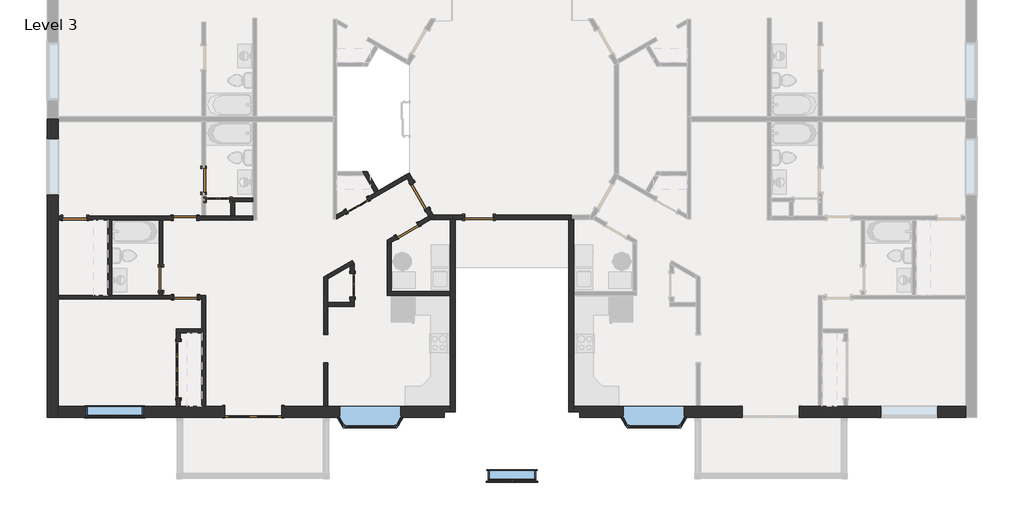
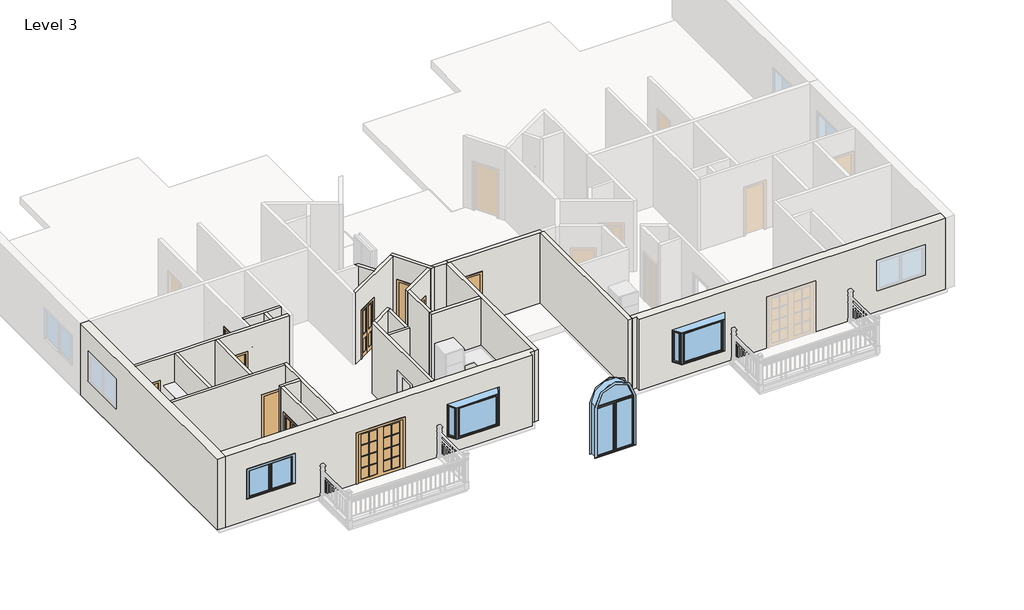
# One storey, part 1 of 5: 26 walls, 13 doors, 4 windows.
"""IFC4 building model written with IfcOpenShell, lengths in millimetres."""

from ifc_helpers import new_model, si_unit, frame, origin, place, context, project, spatial, polyline, outline, extrude, faceted_brep, transform, mapped, element, save
from components import door_28b41c19, door_77c9d7c5, door_c95ce901, door_0a477ef8, door_91cbdfe0, door_39079f6b, door_140ee3fe, door_3dff5d0e, window_8b7055c8, window_fb9100aa, window_7fb523db, window_565d5888

model = new_model("IFC4")

# Units and contexts
model_context = context("Model", 3, world=origin())
ifc_project = project(units=[si_unit("LENGTHUNIT", "METRE", prefix="MILLI")], contexts=[model_context])

# Site, building, storey
site = spatial("IfcSite", under=ifc_project)
building = spatial("IfcBuilding", under=site)
storey = spatial("IfcBuildingStorey", under=building, Name="Level 3", Elevation=6096.0)

# Doors
placement = place(None, origin())
door_shape = door_28b41c19(model_context)
element("IfcDoor", 1, ObjectType="Bifold-2 Panel : 30\" x 80\"", at=placement, inside=storey, context=model_context, shape_type="MappedRepresentation", body=[
    mapped(door_shape, transform((-10106.3500398, -807.7286799, 6096.0), x_axis=(-1.0, 0.0, 0.0), y_axis=(0.0, -1.0, 0.0), z_axis=(0.0, 0.0, 1.0))),
])
door_2_shape = door_77c9d7c5(model_context)
element("IfcDoor", 2, ObjectType="Bifold-2 Panel : 30\" x 80\"", at=placement, inside=storey, context=model_context, shape_type="MappedRepresentation", body=[
    mapped(door_2_shape, transform((-5777.2375398, -3569.9786799, 6096.0), x_axis=(0.0, -1.0, 0.0), y_axis=(1.0, 0.0, 0.0), z_axis=(0.0, 0.0, 1.0))),
])
element("IfcDoor", 3, ObjectType="Bifold-2 Panel : 30\" x 80\"", at=placement, inside=storey, context=model_context, shape_type="MappedRepresentation", body=[
    mapped(door_2_shape, transform((-5620.6593942, -978.2984974, 6096.0), x_axis=(-0.8660254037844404, -0.4999999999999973, 0.0), y_axis=(0.4999999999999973, -0.8660254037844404, 0.0), z_axis=(0.0, 0.0, 1.0))),
])
door_3_shape = door_c95ce901(model_context)
element("IfcDoor", 4, ObjectType="Bifold-4 Panel : 72\" x 80\"", at=placement, inside=storey, context=model_context, shape_type="MappedRepresentation", body=[
    mapped(door_3_shape, transform((-11387.4625398, -6287.7786799, 6096.0), x_axis=(0.0, 1.0, 0.0), y_axis=(-1.0, 0.0, 0.0), z_axis=(0.0, 0.0, 1.0))),
])
door_4_shape = door_0a477ef8(model_context)
element("IfcDoor", 5, ObjectType="Double-Glass 2 : 72\" x 84\"", at=placement, inside=storey, context=model_context, shape_type="MappedRepresentation", body=[
    mapped(door_4_shape, transform((-8972.8750398, -7646.6786799, 6096.0), x_axis=(-1.0, 0.0, 0.0), y_axis=(0.0, -1.0, 0.0), z_axis=(0.0, 0.0, 1.0))),
])
door_5_shape = door_91cbdfe0(model_context)
element("IfcDoor", 6, ObjectType="Single-Flush : 30\" x 80\"", at=placement, inside=storey, context=model_context, shape_type="MappedRepresentation", body=[
    mapped(door_5_shape, transform((-11154.1000398, -3954.1536799, 6096.0), x_axis=(1.0, 0.0, 0.0), y_axis=(0.0, 1.0, 0.0), z_axis=(0.0, 0.0, 1.0))),
])
element("IfcDoor", 7, ObjectType="Single-Flush : 30\" x 80\"", at=placement, inside=storey, context=model_context, shape_type="MappedRepresentation", body=[
    mapped(door_5_shape, transform((-4004.5369788, -1809.0046321, 6096.0), x_axis=(0.8660254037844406, 0.4999999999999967, 0.0), y_axis=(-0.4999999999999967, 0.8660254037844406, 0.0), z_axis=(0.0, 0.0, 1.0))),
])
element("IfcDoor", 8, ObjectType="Single-Flush : 30\" x 80\"", at=placement, inside=storey, context=model_context, shape_type="MappedRepresentation", body=[
    mapped(door_5_shape, transform((-11949.4375398, -3358.8411799, 6096.0), x_axis=(0.0, -1.0, 0.0), y_axis=(1.0, 0.0, 0.0), z_axis=(0.0, 0.0, 1.0))),
])
door_6_shape = door_39079f6b(model_context)
element("IfcDoor", 9, ObjectType="Single-Flush : 30\" x 80\"", at=placement, inside=storey, context=model_context, shape_type="MappedRepresentation", body=[
    mapped(door_6_shape, transform((-11169.9750398, -1391.9286799, 6096.0), x_axis=(1.0, 0.0, 0.0), y_axis=(0.0, 1.0, 0.0), z_axis=(0.0, 0.0, 1.0))),
])
element("IfcDoor", 10, ObjectType="Single-Flush : 30\" x 80\"", at=placement, inside=storey, context=model_context, shape_type="MappedRepresentation", body=[
    mapped(door_6_shape, transform((-10574.6625398, -183.8411799, 6096.0), x_axis=(0.0, -1.0, 0.0), y_axis=(1.0, 0.0, 0.0), z_axis=(0.0, 0.0, 1.0))),
])
element("IfcDoor", 11, ObjectType="Single-Flush : 30\" x 80\"", at=placement, inside=storey, context=model_context, shape_type="MappedRepresentation", body=[
    mapped(door_6_shape, transform((-14725.9750398, -1391.9286799, 6096.0), x_axis=(-1.0, 0.0, 0.0), y_axis=(0.0, -1.0, 0.0), z_axis=(0.0, 0.0, 1.0))),
])
door_7_shape = door_140ee3fe(model_context)
element("IfcDoor", 12, ObjectType="Single-Flush : 36\" x 80\"", at=placement, inside=storey, context=model_context, shape_type="MappedRepresentation", body=[
    mapped(door_7_shape, transform((-3603.7554054, -687.0786799, 6096.0), x_axis=(-0.4999999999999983, 0.8660254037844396, 0.0), y_axis=(-0.8660254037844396, -0.4999999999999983, 0.0), z_axis=(0.0, 0.0, 1.0))),
])
door_8_shape = door_3dff5d0e(model_context)
element("IfcDoor", 13, ObjectType="Single-Flush : 36\" x 84\"", at=placement, inside=storey, context=model_context, shape_type="MappedRepresentation", body=[
    mapped(door_8_shape, transform((-1698.9500398, -1372.8786799, 6096.0), x_axis=(-1.0, 0.0, 0.0), y_axis=(0.0, -1.0, 0.0), z_axis=(0.0, 0.0, 1.0))),
])

# Walls
element("IfcWall", 14, ObjectType="Exterior - Brick on Mtl. Stud", at=placement, inside=storey, context=model_context, shape_type="Brep", body=[
    faceted_brep([(-15259.3750398, -7822.8911799, 6096.0), (-9887.2750398, -7822.8911799, 6096.0), (-9887.2750398, -7822.8911799, 8229.6), (-8058.4750398, -7822.8911799, 8229.6), (-8058.4750398, -7822.8911799, 6096.0), (-2813.3750398, -7822.8911799, 6096.0), (-2813.3750398, -7822.8911799, 9144.0), (-15259.3750398, -7822.8911799, 9144.0), (-6259.7532738, -7822.8911799, 8229.6), (-4151.6375398, -7822.8911799, 8229.6), (-4151.6375398, -7822.8911799, 6858.0), (-6259.7532738, -7822.8911799, 6858.0), (-14350.5312898, -7822.8911799, 8229.6), (-12521.7312898, -7822.8911799, 8229.6), (-12521.7312898, -7822.8911799, 7010.4), (-14350.5312898, -7822.8911799, 7010.4), (-9887.2750398, -7470.4661799, 8229.6), (-9887.2750398, -7470.4661799, 6096.0), (-10512.7500398, -7470.4661799, 6096.0), (-10636.5750398, -7470.4661799, 6096.0), (-11325.5500398, -7470.4661799, 6096.0), (-11449.3750398, -7470.4661799, 6096.0), (-15259.3750398, -7470.4661799, 6096.0), (-15259.3750398, -7470.4661799, 9144.0), (-11449.3750398, -7470.4661799, 9144.0), (-11325.5500398, -7470.4661799, 9144.0), (-10636.5750398, -7470.4661799, 9144.0), (-10512.7500398, -7470.4661799, 9144.0), (-6702.7500398, -7470.4661799, 9144.0), (-6578.9250398, -7470.4661799, 9144.0), (-2616.5250398, -7470.4661799, 9144.0), (-2616.5250398, -7470.4661799, 6096.0), (-6578.9250398, -7470.4661799, 6096.0), (-6702.7500398, -7470.4661799, 6096.0), (-8058.4750398, -7470.4661799, 6096.0), (-8058.4750398, -7470.4661799, 8229.6), (-4218.9373798, -7470.4661799, 8229.6), (-6192.5376998, -7470.4661799, 8229.6), (-6192.5376998, -7470.4661799, 6858.0), (-4218.9373798, -7470.4661799, 6858.0), (-14350.5312898, -7470.4661799, 8229.6), (-14350.5312898, -7470.4661799, 7010.4), (-12521.7312898, -7470.4661799, 7010.4), (-12521.7312898, -7470.4661799, 8229.6), (-2616.5250398, -7646.6786799, 6096.0), (-2813.3750398, -7646.6786799, 6096.0), (-2813.3750398, -7646.6786799, 9144.0), (-2616.5250398, -7646.6786799, 9144.0), (-4218.9373798, -7783.9404412, 8229.6), (-6192.5376998, -7783.9890922, 8229.6), (-4218.9373798, -7783.9404412, 6858.0), (-6192.5376998, -7783.9890922, 6858.0)], [[[0, 1, 2, 3, 4, 5, 6, 7], [8, 9, 10, 11], [12, 13, 14, 15]], [[16, 17, 18, 19, 20, 21, 22, 23, 24, 25, 26, 27, 28, 29, 30, 31, 32, 33, 34, 35], [36, 37, 38, 39], [40, 41, 42, 43]], [[22, 21, 20, 19, 18, 17, 1, 0]], [[34, 33, 32, 31, 44, 45, 5, 4]], [[7, 6, 46, 47, 30, 29, 28, 27, 26, 25, 24, 23]], [[0, 7, 23, 22]], [[6, 5, 45, 46]], [[45, 44, 47, 46]], [[44, 31, 30, 47]], [[2, 1, 17, 16]], [[3, 2, 16, 35]], [[4, 3, 35, 34]], [[48, 9, 8, 49, 37, 36]], [[50, 39, 38, 51, 11, 10]], [[48, 36, 39, 50]], [[37, 49, 51, 38]], [[49, 8, 11, 51]], [[9, 48, 50, 10]], [[41, 40, 12, 15]], [[42, 41, 15, 14]], [[43, 42, 14, 13]], [[40, 43, 13, 12]]]),
])
element("IfcWall", 15, ObjectType="Exterior - Brick on Mtl. Stud", at=placement, inside=storey, context=model_context, shape_type="Brep", body=[
    faceted_brep([(-15611.8000398, 1795.7713201, 6096.0), (-15611.8000398, -7822.8911799, 6096.0), (-15611.8000398, -7822.8911799, 9144.0), (-15611.8000398, 1795.7713201, 9144.0), (-15611.8000398, 1170.2963201, 8229.6), (-15611.8000398, -658.5036799, 8229.6), (-15611.8000398, -658.5036799, 7010.4), (-15611.8000398, 1170.2963201, 7010.4), (-15259.3750398, 1795.7713201, 6096.0), (-15259.3750398, 1795.7713201, 9144.0), (-15259.3750398, 1717.9838201, 9144.0), (-15259.3750398, -1330.0161799, 9144.0), (-15259.3750398, -1453.8411799, 9144.0), (-15259.3750398, -3892.2411799, 9144.0), (-15259.3750398, -4016.0661799, 9144.0), (-15259.3750398, -7470.4661799, 9144.0), (-15259.3750398, -7822.8911799, 9144.0), (-15259.3750398, -7822.8911799, 6096.0), (-15259.3750398, -7470.4661799, 6096.0), (-15259.3750398, -4016.0661799, 6096.0), (-15259.3750398, -3892.2411799, 6096.0), (-15259.3750398, -1453.8411799, 6096.0), (-15259.3750398, -1330.0161799, 6096.0), (-15259.3750398, 1717.9838201, 6096.0), (-15259.3750398, 1170.2963201, 8229.6), (-15259.3750398, 1170.2963201, 7010.4), (-15259.3750398, -658.5036799, 7010.4), (-15259.3750398, -658.5036799, 8229.6)], [[[0, 1, 2, 3], [4, 5, 6, 7]], [[8, 9, 10, 11, 12, 13, 14, 15, 16, 17, 18, 19, 20, 21, 22, 23], [24, 25, 26, 27]], [[1, 0, 8, 23, 22, 21, 20, 19, 18, 17]], [[3, 2, 16, 15, 14, 13, 12, 11, 10, 9]], [[0, 3, 9, 8]], [[2, 1, 17, 16]], [[25, 24, 4, 7]], [[26, 25, 7, 6]], [[27, 26, 6, 5]], [[24, 27, 5, 4]]]),
])
element("IfcWall", 16, ObjectType="Exterior - Brick on Mtl. Stud", at=placement, inside=storey, context=model_context, shape_type="Brep", body=[
    faceted_brep([(13995.0749602, -7470.4661799, 6096.0), (10185.0749602, -7470.4661799, 6096.0), (10061.2499602, -7470.4661799, 6096.0), (9372.2749602, -7470.4661799, 6096.0), (9248.4499602, -7470.4661799, 6096.0), (8622.9749602, -7470.4661799, 6096.0), (8622.9749602, -7470.4661799, 8229.6), (6794.1749602, -7470.4661799, 8229.6), (6794.1749602, -7470.4661799, 6096.0), (5438.4499602, -7470.4661799, 6096.0), (5314.6249602, -7470.4661799, 6096.0), (1352.2249602, -7470.4661799, 6096.0), (1352.2249602, -7470.4661799, 9144.0), (5314.6249602, -7470.4661799, 9144.0), (5438.4499602, -7470.4661799, 9144.0), (9248.4499602, -7470.4661799, 9144.0), (9372.2749602, -7470.4661799, 9144.0), (10061.2499602, -7470.4661799, 9144.0), (10185.0749602, -7470.4661799, 9144.0), (13995.0749602, -7470.4661799, 9144.0), (4928.2376202, -7470.4661799, 8229.6), (2954.6373002, -7470.4661799, 8229.6), (2954.6373002, -7470.4661799, 6858.0), (4928.2376202, -7470.4661799, 6858.0), (13086.2312102, -7470.4661799, 8229.6), (11257.4312102, -7470.4661799, 8229.6), (11257.4312102, -7470.4661799, 7010.4), (13086.2312102, -7470.4661799, 7010.4), (8622.9749602, -7822.8911799, 8229.6), (8622.9749602, -7822.8911799, 6096.0), (13995.0749602, -7822.8911799, 6096.0), (13995.0749602, -7822.8911799, 9144.0), (1549.0749602, -7822.8911799, 9144.0), (1549.0749602, -7822.8911799, 6096.0), (6794.1749602, -7822.8911799, 6096.0), (6794.1749602, -7822.8911799, 8229.6), (2887.3374602, -7822.8911799, 8229.6), (4995.4531942, -7822.8911799, 8229.6), (4995.4531942, -7822.8911799, 6858.0), (2887.3374602, -7822.8911799, 6858.0), (13086.2312102, -7822.8911799, 8229.6), (13086.2312102, -7822.8911799, 7010.4), (11257.4312102, -7822.8911799, 7010.4), (11257.4312102, -7822.8911799, 8229.6), (1549.0749602, -7646.6786799, 6096.0), (1352.2249602, -7646.6786799, 6096.0), (1352.2249602, -7646.6786799, 9144.0), (1549.0749602, -7646.6786799, 9144.0), (2954.6373002, -7783.9404412, 8229.6), (4928.2376202, -7783.9890922, 8229.6), (2954.6373002, -7783.9404412, 6858.0), (4928.2376202, -7783.9890922, 6858.0)], [[[0, 1, 2, 3, 4, 5, 6, 7, 8, 9, 10, 11, 12, 13, 14, 15, 16, 17, 18, 19], [20, 21, 22, 23], [24, 25, 26, 27]], [[28, 29, 30, 31, 32, 33, 34, 35], [36, 37, 38, 39], [40, 41, 42, 43]], [[30, 29, 5, 4, 3, 2, 1, 0]], [[34, 33, 44, 45, 11, 10, 9, 8]], [[19, 18, 17, 16, 15, 14, 13, 12, 46, 47, 32, 31]], [[0, 19, 31, 30]], [[12, 11, 45, 46]], [[45, 44, 47, 46]], [[44, 33, 32, 47]], [[6, 5, 29, 28]], [[7, 6, 28, 35]], [[8, 7, 35, 34]], [[48, 21, 20, 49, 37, 36]], [[50, 39, 38, 51, 23, 22]], [[48, 50, 22, 21]], [[20, 23, 51, 49]], [[49, 51, 38, 37]], [[36, 39, 50, 48]], [[41, 40, 24, 27]], [[42, 41, 27, 26]], [[43, 42, 26, 25]], [[40, 43, 25, 24]]]),
])
element("IfcWall", 17, ObjectType="Generic - 6\" Masonry", at=placement, inside=storey, context=model_context, shape_type="Brep", body=[
    faceted_brep([(-3084.0752113, -1444.3161799, 6096.0), (-2616.5250398, -1444.3161799, 6096.0), (-2538.7375398, -1444.3161799, 6096.0), (-2538.7375398, -1444.3161799, 9144.0), (-2616.5250398, -1444.3161799, 9144.0), (-3084.0752113, -1444.3161799, 9144.0), (-3166.564131, -1301.4411799, 6096.0), (-3166.564131, -1301.4411799, 9144.0), (-2538.7375398, -1301.4411799, 9144.0), (-2538.7375398, -1301.4411799, 6096.0)], [[[0, 1, 2, 3, 4, 5]], [[6, 7, 8, 9]], [[2, 1, 0, 6, 9]], [[3, 2, 9, 8]], [[5, 4, 3, 8, 7]], [[0, 5, 7, 6]]]),
])
element("IfcWall", 18, ObjectType="Generic - 6\" Masonry", at=placement, inside=storey, context=model_context, shape_type="Brep", body=[
    faceted_brep([(-4074.7024624, -14.2494496, 6096.0), (-4012.7899624, -121.4850452, 6096.0), (-3894.2220952, -326.8506153, 6096.0), (-3894.2220952, -326.8506153, 8128.0), (-3437.0220952, -1118.7442445, 8128.0), (-3437.0220952, -1118.7442445, 6096.0), (-3310.9655507, -1337.0805843, 6096.0), (-3249.0530507, -1444.3161799, 6096.0), (-3249.0530507, -1444.3161799, 9144.0), (-3310.9655507, -1337.0805843, 9144.0), (-4012.7899624, -121.4850452, 9144.0), (-4074.7024624, -14.2494496, 9144.0), (-3770.4887156, -255.4131153, 8128.0), (-3770.4887156, -255.4131153, 6096.0), (-3950.9690828, 57.1880504, 6096.0), (-3950.9690828, 57.1880504, 9144.0), (-3166.564131, -1301.4411799, 9144.0), (-3084.0752113, -1444.3161799, 9144.0), (-3084.0752113, -1444.3161799, 6096.0), (-3166.564131, -1301.4411799, 6096.0), (-3313.2887156, -1047.3067445, 6096.0), (-3313.2887156, -1047.3067445, 8128.0)], [[[0, 1, 2, 3, 4, 5, 6, 7, 8, 9, 10, 11]], [[12, 13, 14, 15, 16, 17, 18, 19, 20, 21]], [[14, 13, 2, 1, 0]], [[20, 19, 18, 7, 6, 5]], [[11, 10, 9, 8, 17, 16, 15]], [[0, 11, 15, 14]], [[8, 7, 18, 17]], [[3, 2, 13, 12]], [[4, 3, 12, 21]], [[5, 4, 21, 20]]]),
])
element("IfcWall", 19, ObjectType="Generic - 6\" Masonry", at=placement, inside=storey, context=model_context, shape_type="Brep", body=[
    faceted_brep([(-2538.7375398, -1444.3161799, 6096.0), (-2460.9500398, -1444.3161799, 6096.0), (-2156.1500398, -1444.3161799, 6096.0), (-2156.1500398, -1444.3161799, 8229.6), (-1241.7500398, -1444.3161799, 8229.6), (-1241.7500398, -1444.3161799, 6096.0), (1196.6499602, -1444.3161799, 6096.0), (1274.4374602, -1444.3161799, 6096.0), (1274.4374602, -1444.3161799, 9144.0), (1196.6499602, -1444.3161799, 9144.0), (-2460.9500398, -1444.3161799, 9144.0), (-2538.7375398, -1444.3161799, 9144.0), (-2156.1500398, -1301.4411799, 8229.6), (-2156.1500398, -1301.4411799, 6096.0), (-2538.7375398, -1301.4411799, 6096.0), (-2538.7375398, -1301.4411799, 9144.0), (1274.4374602, -1301.4411799, 9144.0), (1274.4374602, -1301.4411799, 6096.0), (-1241.7500398, -1301.4411799, 6096.0), (-1241.7500398, -1301.4411799, 8229.6)], [[[0, 1, 2, 3, 4, 5, 6, 7, 8, 9, 10, 11]], [[12, 13, 14, 15, 16, 17, 18, 19]], [[18, 17, 7, 6, 5]], [[14, 13, 2, 1, 0]], [[8, 7, 17, 16]], [[11, 10, 9, 8, 16, 15]], [[0, 11, 15, 14]], [[3, 2, 13, 12]], [[4, 3, 12, 19]], [[5, 4, 19, 18]]]),
])
element("IfcWall", 20, ObjectType="Interior - 4 7/8\" Partition (1-hr)", at=placement, inside=storey, context=model_context, shape_type="Brep", body=[
    faceted_brep([(-6578.9250398, -7470.4661799, 6096.0), (-6578.9250398, -6071.8786799, 6096.0), (-6578.9250398, -6071.8786799, 8128.0), (-6578.9250398, -5157.4786799, 8128.0), (-6578.9250398, -5157.4786799, 6096.0), (-6578.9250398, -4244.6661799, 6096.0), (-6578.9250398, -4120.8411799, 6096.0), (-6578.9250398, -3366.8186692, 6096.0), (-6578.9250398, -3223.8378751, 6096.0), (-6578.9250398, -3223.8378751, 9144.0), (-6578.9250398, -3366.8186692, 9144.0), (-6578.9250398, -4120.8411799, 9144.0), (-6578.9250398, -4244.6661799, 9144.0), (-6578.9250398, -7470.4661799, 9144.0), (-6702.7500398, -6071.8786799, 8128.0), (-6702.7500398, -6071.8786799, 6096.0), (-6702.7500398, -7470.4661799, 6096.0), (-6702.7500398, -7470.4661799, 9144.0), (-6702.7500398, -3295.3282721, 9144.0), (-6702.7500398, -3295.3282721, 6096.0), (-6702.7500398, -5157.4786799, 6096.0), (-6702.7500398, -5157.4786799, 8128.0)], [[[0, 1, 2, 3, 4, 5, 6, 7, 8, 9, 10, 11, 12, 13]], [[14, 15, 16, 17, 18, 19, 20, 21]], [[16, 15, 1, 0]], [[20, 19, 8, 7, 6, 5, 4]], [[13, 12, 11, 10, 9, 18, 17]], [[9, 8, 19, 18]], [[0, 13, 17, 16]], [[4, 3, 21, 20]], [[2, 1, 15, 14]], [[3, 2, 14, 21]]]),
])
element("IfcWall", 21, ObjectType="Interior - 4 7/8\" Partition (1-hr)", at=placement, inside=storey, context=model_context, shape_type="Brep", body=[
    faceted_brep([(-10512.7500398, -7470.4661799, 6096.0), (-10512.7500398, -3892.2411799, 6096.0), (-10512.7500398, -3892.2411799, 9144.0), (-10512.7500398, -7470.4661799, 9144.0), (-10636.5750398, -7470.4661799, 6096.0), (-10636.5750398, -7470.4661799, 9144.0), (-10636.5750398, -5105.0911799, 9144.0), (-10636.5750398, -4981.2661799, 9144.0), (-10636.5750398, -4016.0661799, 9144.0), (-10636.5750398, -3892.2411799, 9144.0), (-10636.5750398, -3892.2411799, 6096.0), (-10636.5750398, -4016.0661799, 6096.0), (-10636.5750398, -4981.2661799, 6096.0), (-10636.5750398, -5105.0911799, 6096.0)], [[[0, 1, 2, 3]], [[4, 5, 6, 7, 8, 9, 10, 11, 12, 13]], [[1, 0, 4, 13, 12, 11, 10]], [[3, 2, 9, 8, 7, 6, 5]], [[2, 1, 10, 9]], [[0, 3, 5, 4]]]),
])
element("IfcWall", 22, ObjectType="Interior - 4 7/8\" Partition (1-hr)", at=placement, inside=storey, context=model_context, shape_type="Brep", body=[
    faceted_brep([(-10636.5750398, -3892.2411799, 6096.0), (-10773.1000398, -3892.2411799, 6096.0), (-10773.1000398, -3892.2411799, 8128.0), (-11535.1000398, -3892.2411799, 8128.0), (-11535.1000398, -3892.2411799, 6096.0), (-11887.5250398, -3892.2411799, 6096.0), (-12011.3500398, -3892.2411799, 6096.0), (-13535.3500398, -3892.2411799, 6096.0), (-13659.1750398, -3892.2411799, 6096.0), (-15259.3750398, -3892.2411799, 6096.0), (-15259.3750398, -3892.2411799, 9144.0), (-13659.1750398, -3892.2411799, 9144.0), (-13535.3500398, -3892.2411799, 9144.0), (-12011.3500398, -3892.2411799, 9144.0), (-11887.5250398, -3892.2411799, 9144.0), (-10636.5750398, -3892.2411799, 9144.0), (-10773.1000398, -4016.0661799, 8128.0), (-10773.1000398, -4016.0661799, 6096.0), (-10636.5750398, -4016.0661799, 6096.0), (-10636.5750398, -4016.0661799, 9144.0), (-15259.3750398, -4016.0661799, 9144.0), (-15259.3750398, -4016.0661799, 6096.0), (-11535.1000398, -4016.0661799, 6096.0), (-11535.1000398, -4016.0661799, 8128.0)], [[[0, 1, 2, 3, 4, 5, 6, 7, 8, 9, 10, 11, 12, 13, 14, 15]], [[16, 17, 18, 19, 20, 21, 22, 23]], [[18, 17, 1, 0]], [[22, 21, 9, 8, 7, 6, 5, 4]], [[15, 14, 13, 12, 11, 10, 20, 19]], [[10, 9, 21, 20]], [[0, 15, 19, 18]], [[2, 1, 17, 16]], [[3, 2, 16, 23]], [[4, 3, 23, 22]]]),
])
element("IfcWall", 23, ObjectType="Interior - 4 7/8\" Partition (1-hr)", at=placement, inside=storey, context=model_context, shape_type="SweptSolid", body=[
    extrude(outline(polyline([(-3739.8411799, 8128.0), (-3739.8411799, 6096.0), (-3892.2411799, 6096.0), (-3892.2411799, 9144.0), (-1453.8411799, 9144.0), (-1453.8411799, 6096.0), (-2977.8411799, 6096.0), (-2977.8411799, 8128.0), (-3739.8411799, 8128.0)])), frame((-12011.3500398, 0.0, 0.0), z_axis=(1.0, 0.0, 0.0), x_axis=(0.0, 1.0, 0.0)), (0.0, 0.0, 1.0), 123.825),
])
element("IfcWall", 24, ObjectType="Interior - 4 7/8\" Partition (1-hr)", at=placement, inside=storey, context=model_context, shape_type="Brep", body=[
    faceted_brep([(-10636.5750398, -4981.2661799, 6096.0), (-11449.3750398, -4981.2661799, 6096.0), (-11449.3750398, -4981.2661799, 9144.0), (-10636.5750398, -4981.2661799, 9144.0), (-10636.5750398, -5105.0911799, 6096.0), (-10636.5750398, -5105.0911799, 9144.0), (-11325.5500398, -5105.0911799, 9144.0), (-11449.3750398, -5105.0911799, 9144.0), (-11449.3750398, -5105.0911799, 6096.0), (-11325.5500398, -5105.0911799, 6096.0)], [[[0, 1, 2, 3]], [[4, 5, 6, 7, 8, 9]], [[1, 0, 4, 9, 8]], [[3, 2, 7, 6, 5]], [[2, 1, 8, 7]], [[0, 3, 5, 4]]]),
])
element("IfcWall", 25, ObjectType="Interior - 4 7/8\" Partition (1-hr)", at=placement, inside=storey, context=model_context, shape_type="SweptSolid", body=[
    extrude(outline(polyline([(-5105.0911799, 6096.0), (-5373.3786799, 6096.0), (-5373.3786799, 8128.0), (-7202.1786799, 8128.0), (-7202.1786799, 6096.0), (-7470.4661799, 6096.0), (-7470.4661799, 9144.0), (-5105.0911799, 9144.0), (-5105.0911799, 6096.0)])), frame((-11449.3750398, 0.0, 0.0), z_axis=(1.0, 0.0, 0.0), x_axis=(0.0, 1.0, 0.0)), (0.0, 0.0, 1.0), 123.825),
])
element("IfcWall", 26, ObjectType="Interior - 4 7/8\" Partition (1-hr)", at=placement, inside=storey, context=model_context, shape_type="SweptSolid", body=[
    extrude(outline(polyline([(-13535.3500398, -1453.8411799), (-13535.3500398, -3892.2411799), (-13659.1750398, -3892.2411799), (-13659.1750398, -1453.8411799), (-13535.3500398, -1453.8411799)])), frame((0.0, 0.0, 6096.0), z_axis=(0.0, 0.0, 1.0), x_axis=(1.0, 0.0, 0.0)), (0.0, 0.0, 1.0), 3048.0),
])
element("IfcWall", 27, ObjectType="Interior - 4 7/8\" Partition (1-hr)", at=placement, inside=storey, context=model_context, shape_type="Brep", body=[
    faceted_brep([(-15259.3750398, -1453.8411799, 6096.0), (-15106.9750398, -1453.8411799, 6096.0), (-15106.9750398, -1453.8411799, 8128.0), (-14344.9750398, -1453.8411799, 8128.0), (-14344.9750398, -1453.8411799, 6096.0), (-13659.1750398, -1453.8411799, 6096.0), (-13535.3500398, -1453.8411799, 6096.0), (-12011.3500398, -1453.8411799, 6096.0), (-11887.5250398, -1453.8411799, 6096.0), (-11550.9750398, -1453.8411799, 6096.0), (-11550.9750398, -1453.8411799, 8128.0), (-10788.9750398, -1453.8411799, 8128.0), (-10788.9750398, -1453.8411799, 6096.0), (-8988.7500398, -1453.8411799, 6096.0), (-8988.7500398, -1453.8411799, 9144.0), (-11887.5250398, -1453.8411799, 9144.0), (-12011.3500398, -1453.8411799, 9144.0), (-13535.3500398, -1453.8411799, 9144.0), (-13659.1750398, -1453.8411799, 9144.0), (-15259.3750398, -1453.8411799, 9144.0), (-15106.9750398, -1330.0161799, 8128.0), (-15106.9750398, -1330.0161799, 6096.0), (-15259.3750398, -1330.0161799, 6096.0), (-15259.3750398, -1330.0161799, 9144.0), (-10636.5750398, -1330.0161799, 9144.0), (-10512.7500398, -1330.0161799, 9144.0), (-9699.9500398, -1330.0161799, 9144.0), (-9576.1250398, -1330.0161799, 9144.0), (-8988.7500398, -1330.0161799, 9144.0), (-8988.7500398, -1330.0161799, 6096.0), (-9576.1250398, -1330.0161799, 6096.0), (-9699.9500398, -1330.0161799, 6096.0), (-10512.7500398, -1330.0161799, 6096.0), (-10636.5750398, -1330.0161799, 6096.0), (-10788.9750398, -1330.0161799, 6096.0), (-10788.9750398, -1330.0161799, 8128.0), (-11550.9750398, -1330.0161799, 8128.0), (-11550.9750398, -1330.0161799, 6096.0), (-14344.9750398, -1330.0161799, 6096.0), (-14344.9750398, -1330.0161799, 8128.0)], [[[0, 1, 2, 3, 4, 5, 6, 7, 8, 9, 10, 11, 12, 13, 14, 15, 16, 17, 18, 19]], [[20, 21, 22, 23, 24, 25, 26, 27, 28, 29, 30, 31, 32, 33, 34, 35, 36, 37, 38, 39]], [[13, 12, 34, 33, 32, 31, 30, 29]], [[22, 21, 1, 0]], [[38, 37, 9, 8, 7, 6, 5, 4]], [[19, 18, 17, 16, 15, 14, 28, 27, 26, 25, 24, 23]], [[14, 13, 29, 28]], [[0, 19, 23, 22]], [[35, 34, 12, 11]], [[36, 35, 11, 10]], [[37, 36, 10, 9]], [[2, 1, 21, 20]], [[3, 2, 20, 39]], [[4, 3, 39, 38]]]),
])
element("IfcWall", 28, ObjectType="Interior - 4 7/8\" Partition (1-hr)", at=placement, inside=storey, context=model_context, shape_type="Brep", body=[
    faceted_brep([(-6578.9250398, -4244.6661799, 6096.0), (-5715.3250398, -4244.6661799, 6096.0), (-5715.3250398, -4244.6661799, 9144.0), (-6578.9250398, -4244.6661799, 9144.0), (-6578.9250398, -4120.8411799, 6096.0), (-6578.9250398, -4120.8411799, 9144.0), (-5839.1500398, -4120.8411799, 9144.0), (-5715.3250398, -4120.8411799, 9144.0), (-5715.3250398, -4120.8411799, 6096.0), (-5839.1500398, -4120.8411799, 6096.0)], [[[0, 1, 2, 3]], [[4, 5, 6, 7, 8, 9]], [[1, 0, 4, 9, 8]], [[3, 2, 7, 6, 5]], [[2, 1, 8, 7]], [[0, 3, 5, 4]]]),
])
element("IfcWall", 29, ObjectType="Interior - 4 7/8\" Partition (1-hr)", at=placement, inside=storey, context=model_context, shape_type="Brep", body=[
    faceted_brep([(-5715.3250398, -4120.8411799, 6096.0), (-5715.3250398, -3950.9786799, 6096.0), (-5715.3250398, -3950.9786799, 8128.0), (-5715.3250398, -3188.9786799, 8128.0), (-5715.3250398, -3188.9786799, 6096.0), (-5715.3250398, -2868.2189767, 6096.0), (-5715.3250398, -2868.2189767, 9144.0), (-5715.3250398, -4120.8411799, 9144.0), (-5839.1500398, -3950.9786799, 8128.0), (-5839.1500398, -3950.9786799, 6096.0), (-5839.1500398, -4120.8411799, 6096.0), (-5839.1500398, -4120.8411799, 9144.0), (-5839.1500398, -2939.7093738, 9144.0), (-5839.1500398, -2939.7093738, 6096.0), (-5839.1500398, -3188.9786799, 6096.0), (-5839.1500398, -3188.9786799, 8128.0)], [[[0, 1, 2, 3, 4, 5, 6, 7]], [[8, 9, 10, 11, 12, 13, 14, 15]], [[10, 9, 1, 0]], [[14, 13, 5, 4]], [[7, 6, 12, 11]], [[6, 5, 13, 12]], [[0, 7, 11, 10]], [[2, 1, 9, 8]], [[3, 2, 8, 15]], [[4, 3, 15, 14]]]),
])
element("IfcWall", 30, ObjectType="Interior - 4 7/8\" Partition (1-hr)", at=placement, inside=storey, context=model_context, shape_type="Brep", body=[
    faceted_brep([(-3310.9655507, -1337.0805843, 6096.0), (-3705.53755, -1564.8868343, 6096.0), (-3705.53755, -1564.8868343, 8128.0), (-4365.4489076, -1945.8868343, 8128.0), (-4365.4489076, -1945.8868343, 6096.0), (-4648.5250398, -2109.3209154, 6096.0), (-4648.5250398, -2109.3209154, 9144.0), (-3310.9655507, -1337.0805843, 9144.0), (-3643.62505, -1672.1224299, 8128.0), (-3643.62505, -1672.1224299, 6096.0), (-3249.0530507, -1444.3161799, 6096.0), (-3249.0530507, -1444.3161799, 9144.0), (-4524.7000398, -2180.8113125, 9144.0), (-4648.5250398, -2252.3017096, 9144.0), (-4648.5250398, -2252.3017096, 6096.0), (-4524.7000398, -2180.8113125, 6096.0), (-4303.5364076, -2053.1224299, 6096.0), (-4303.5364076, -2053.1224299, 8128.0)], [[[0, 1, 2, 3, 4, 5, 6, 7]], [[8, 9, 10, 11, 12, 13, 14, 15, 16, 17]], [[10, 9, 1, 0]], [[16, 15, 14, 5, 4]], [[7, 6, 13, 12, 11]], [[6, 5, 14, 13]], [[0, 7, 11, 10]], [[2, 1, 9, 8]], [[3, 2, 8, 17]], [[4, 3, 17, 16]]]),
])
element("IfcWall", 31, ObjectType="Interior - 4 7/8\" Partition (1-hr)", at=placement, inside=storey, context=model_context, shape_type="Brep", body=[
    faceted_brep([(-4648.5250398, -3889.0661799, 6096.0), (-2616.5250398, -3889.0661799, 6096.0), (-2616.5250398, -3889.0661799, 9144.0), (-4648.5250398, -3889.0661799, 9144.0), (-4648.5250398, -3765.2411799, 6096.0), (-4648.5250398, -3765.2411799, 9144.0), (-4524.7000398, -3765.2411799, 9144.0), (-2616.5250398, -3765.2411799, 9144.0), (-2616.5250398, -3765.2411799, 6096.0), (-4524.7000398, -3765.2411799, 6096.0)], [[[0, 1, 2, 3]], [[4, 5, 6, 7, 8, 9]], [[1, 0, 4, 9, 8]], [[3, 2, 7, 6, 5]], [[0, 3, 5, 4]], [[2, 1, 8, 7]]]),
])
element("IfcWall", 32, ObjectType="Interior - 4 7/8\" Partition (1-hr)", at=placement, inside=storey, context=model_context, shape_type="SweptSolid", body=[
    extrude(outline(polyline([(-4524.7000398, -2180.8113125), (-4524.7000398, -3765.2411799), (-4648.5250398, -3765.2411799), (-4648.5250398, -2252.3017096), (-4524.7000398, -2180.8113125)])), frame((0.0, 0.0, 6096.0), z_axis=(0.0, 0.0, 1.0), x_axis=(1.0, 0.0, 0.0)), (0.0, 0.0, 1.0), 3048.0),
])
element("IfcWall", 33, ObjectType="Interior - 4 7/8\" Partition (1-hr)", at=placement, inside=storey, context=model_context, shape_type="Brep", body=[
    faceted_brep([(-5777.2375398, -2760.9833811, 6096.0), (-6578.9250398, -3223.8378751, 6096.0), (-6578.9250398, -3223.8378751, 9144.0), (-5777.2375398, -2760.9833811, 9144.0), (-5715.3250398, -2868.2189767, 6096.0), (-5715.3250398, -2868.2189767, 9144.0), (-5839.1500398, -2939.7093738, 9144.0), (-6578.9250398, -3366.8186692, 9144.0), (-6578.9250398, -3366.8186692, 6096.0), (-5839.1500398, -2939.7093738, 6096.0)], [[[0, 1, 2, 3]], [[4, 5, 6, 7, 8, 9]], [[1, 0, 4, 9, 8]], [[3, 2, 7, 6, 5]], [[0, 3, 5, 4]], [[2, 1, 8, 7]]]),
])
element("IfcWall", 34, ObjectType="Interior - 4 7/8\" Partition (1-hr)", at=placement, inside=storey, context=model_context, shape_type="Brep", body=[
    faceted_brep([(-6277.3000398, -1428.900548, 6096.0), (-5919.658823, -1222.4162952, 6096.0), (-5919.658823, -1222.4162952, 8128.0), (-5259.7474653, -841.4162952, 8128.0), (-5259.7474653, -841.4162952, 6096.0), (-4012.7899624, -121.4850452, 6096.0), (-4012.7899624, -121.4850452, 9144.0), (-6277.3000398, -1428.900548, 9144.0), (-5981.571323, -1115.1806996, 8128.0), (-5981.571323, -1115.1806996, 6096.0), (-6277.3000398, -1285.9197539, 6096.0), (-6277.3000398, -1285.9197539, 9144.0), (-5050.8213456, -577.8119496, 9144.0), (-4943.58575, -515.8994496, 9144.0), (-4074.7024624, -14.2494496, 9144.0), (-4074.7024624, -14.2494496, 6096.0), (-4943.58575, -515.8994496, 6096.0), (-5050.8213456, -577.8119496, 6096.0), (-5321.6599653, -734.1806996, 6096.0), (-5321.6599653, -734.1806996, 8128.0)], [[[0, 1, 2, 3, 4, 5, 6, 7]], [[8, 9, 10, 11, 12, 13, 14, 15, 16, 17, 18, 19]], [[10, 9, 1, 0]], [[18, 17, 16, 15, 5, 4]], [[7, 6, 14, 13, 12, 11]], [[6, 5, 15, 14]], [[0, 7, 11, 10]], [[2, 1, 9, 8]], [[3, 2, 8, 19]], [[4, 3, 19, 18]]]),
])
element("IfcWall", 35, ObjectType="Interior - 4 7/8\" Partition (1-hr)", at=placement, inside=storey, context=model_context, shape_type="Brep", body=[
    faceted_brep([(-4943.58575, -515.8994496, 6096.0), (-5296.3292288, 95.0701778, 6096.0), (-5296.3292288, 95.0701778, 9144.0), (-4943.58575, -515.8994496, 9144.0), (-5050.8213456, -577.8119496, 6096.0), (-5050.8213456, -577.8119496, 9144.0), (-5367.8196259, -28.7548222, 9144.0), (-5439.310023, 95.0701778, 9144.0), (-5439.310023, 95.0701778, 6096.0), (-5367.8196259, -28.7548222, 6096.0)], [[[0, 1, 2, 3]], [[4, 5, 6, 7, 8, 9]], [[1, 0, 4, 9, 8]], [[3, 2, 7, 6, 5]], [[2, 1, 8, 7]], [[0, 3, 5, 4]]]),
])
element("IfcWall", 36, ObjectType="Interior - 4 7/8\" Partition (1-hr)", at=placement, inside=storey, context=model_context, shape_type="Brep", body=[
    faceted_brep([(-10512.7500398, -745.8161799, 9144.0), (-8988.7500398, -745.8161799, 9144.0), (-8988.7500398, -745.8161799, 6096.0), (-9725.3500398, -745.8161799, 6096.0), (-9725.3500398, -745.8161799, 8128.0), (-10487.3500398, -745.8161799, 8128.0), (-10487.3500398, -745.8161799, 6096.0), (-10512.7500398, -745.8161799, 6096.0), (-8988.7500398, -869.6411799, 9144.0), (-9576.1250398, -869.6411799, 9144.0), (-9699.9500398, -869.6411799, 9144.0), (-10512.7500398, -869.6411799, 9144.0), (-10512.7500398, -869.6411799, 6096.0), (-10487.3500398, -869.6411799, 6096.0), (-10487.3500398, -869.6411799, 8128.0), (-9725.3500398, -869.6411799, 8128.0), (-9725.3500398, -869.6411799, 6096.0), (-9699.9500398, -869.6411799, 6096.0), (-9576.1250398, -869.6411799, 6096.0), (-8988.7500398, -869.6411799, 6096.0)], [[[0, 1, 2, 3, 4, 5, 6, 7]], [[8, 9, 10, 11, 12, 13, 14, 15, 16, 17, 18, 19]], [[2, 19, 18, 17, 16, 3]], [[12, 7, 6, 13]], [[1, 0, 11, 10, 9, 8]], [[5, 14, 13, 6]], [[14, 5, 4, 15]], [[15, 4, 3, 16]], [[2, 1, 8, 19]], [[0, 7, 12, 11]]]),
])
element("IfcWall", 37, ObjectType="Interior - 4 7/8\" Partition (1-hr)", at=placement, inside=storey, context=model_context, shape_type="SweptSolid", body=[
    extrude(outline(polyline([(-9699.9500398, -1330.0161799), (-9699.9500398, -869.6411799), (-9576.1250398, -869.6411799), (-9576.1250398, -1330.0161799), (-9699.9500398, -1330.0161799)])), frame((0.0, 0.0, 6096.0), z_axis=(0.0, 0.0, 1.0), x_axis=(1.0, 0.0, 0.0)), (0.0, 0.0, 1.0), 3048.0),
])
element("IfcWall", 38, ObjectType="Interior - 6 1/8\" Partition (2-hr)", at=placement, inside=storey, context=model_context, shape_type="Brep", body=[
    faceted_brep([(-2616.5250398, -1444.3161799, 6096.0), (-2616.5250398, -3765.2411799, 6096.0), (-2616.5250398, -3889.0661799, 6096.0), (-2616.5250398, -7470.4661799, 6096.0), (-2616.5250398, -7646.6786799, 6096.0), (-2616.5250398, -7646.6786799, 9144.0), (-2616.5250398, -7470.4661799, 9144.0), (-2616.5250398, -3889.0661799, 9144.0), (-2616.5250398, -3765.2411799, 9144.0), (-2616.5250398, -1444.3161799, 9144.0), (-2460.9500398, -1444.3161799, 6096.0), (-2460.9500398, -1444.3161799, 9144.0), (-2460.9500398, -7646.6786799, 9144.0), (-2460.9500398, -7646.6786799, 6096.0), (-2538.7375398, -1444.3161799, 6096.0), (-2538.7375398, -1444.3161799, 9144.0)], [[[0, 1, 2, 3, 4, 5, 6, 7, 8, 9]], [[10, 11, 12, 13]], [[4, 3, 2, 1, 0, 14, 10, 13]], [[5, 4, 13, 12]], [[9, 8, 7, 6, 5, 12, 11, 15]], [[0, 9, 15, 11, 10, 14]]]),
])
element("IfcWall", 39, ObjectType="Interior - 6 1/8\" Partition (2-hr)", at=placement, inside=storey, context=model_context, shape_type="Brep", body=[
    faceted_brep([(1196.6499602, -1444.3161799, 6096.0), (1196.6499602, -7646.6786799, 6096.0), (1196.6499602, -7646.6786799, 9144.0), (1196.6499602, -1444.3161799, 9144.0), (1352.2249602, -1444.3161799, 6096.0), (1352.2249602, -1444.3161799, 9144.0), (1352.2249602, -3765.2411799, 9144.0), (1352.2249602, -3889.0661799, 9144.0), (1352.2249602, -7470.4661799, 9144.0), (1352.2249602, -7646.6786799, 9144.0), (1352.2249602, -7646.6786799, 6096.0), (1352.2249602, -7470.4661799, 6096.0), (1352.2249602, -3889.0661799, 6096.0), (1352.2249602, -3765.2411799, 6096.0), (1274.4374602, -1444.3161799, 6096.0), (1274.4374602, -1444.3161799, 9144.0)], [[[0, 1, 2, 3]], [[4, 5, 6, 7, 8, 9, 10, 11, 12, 13]], [[1, 0, 14, 4, 13, 12, 11, 10]], [[2, 1, 10, 9]], [[3, 2, 9, 8, 7, 6, 5, 15]], [[0, 3, 15, 5, 4, 14]]]),
])

# Windows
window_shape = window_8b7055c8(model_context)
element("IfcWindow", 40, ObjectType="Combination Rtp with Trim : 60\" x 84\"", at=placement, inside=storey, context=model_context, shape_type="MappedRepresentation", body=[
    mapped(window_shape, transform((-624.1478817, -9714.6359666, 5181.6), x_axis=(-1.0, 0.0, 0.0), y_axis=(0.0, -1.0, 0.0), z_axis=(0.0, 0.0, 1.0))),
])
window_2_shape = window_fb9100aa(model_context)
element("IfcWindow", 41, ObjectType="Bay-30 Deg : 84\" x 54\"", at=placement, inside=storey, context=model_context, shape_type="MappedRepresentation", body=[
    mapped(window_2_shape, transform((-5205.7861908, -7646.6786799, 6096.0), x_axis=(-1.0, 0.0, 0.0), y_axis=(0.0, -1.0, 0.0), z_axis=(0.0, 0.0, 1.0))),
])
window_3_shape = window_7fb523db(model_context)
element("IfcWindow", 42, ObjectType="Bay-30 Deg : 84\" x 54\"", at=placement, inside=storey, context=model_context, shape_type="MappedRepresentation", body=[
    mapped(window_3_shape, transform((3941.4861112, -7646.6786799, 6096.0), x_axis=(1.0, 0.0, 0.0), y_axis=(0.0, 1.0, 0.0), z_axis=(0.0, 0.0, 1.0))),
])
window_4_shape = window_565d5888(model_context)
element("IfcWindow", 43, ObjectType="Casement Dbl with Trim : 72\" x 48\"", at=placement, inside=storey, context=model_context, shape_type="MappedRepresentation", body=[
    mapped(window_4_shape, transform((-13436.1312898, -7627.6286799, 5791.2), x_axis=(-1.0, 0.0, 0.0), y_axis=(0.0, -1.0, 0.0), z_axis=(0.0, 0.0, 1.0))),
])

save(model, "model.ifc")
